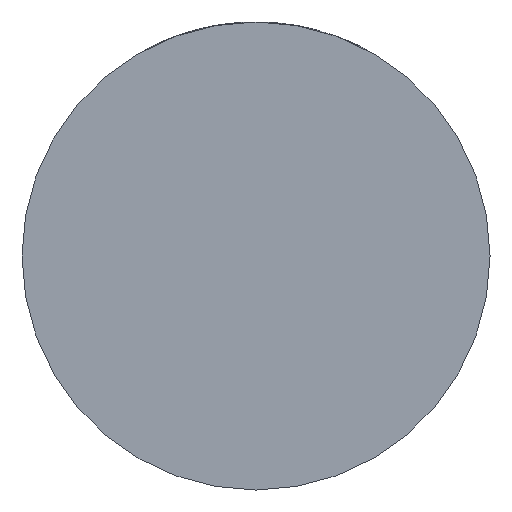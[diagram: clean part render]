
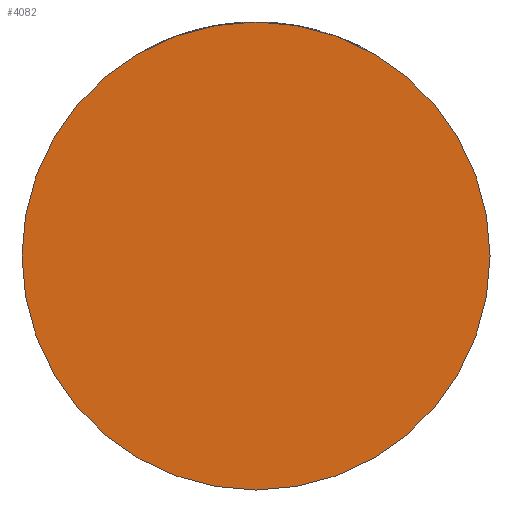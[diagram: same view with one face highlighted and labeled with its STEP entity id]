
A CAD part, front view. The second image highlights one B-rep face of the part: STEP entity #4082.
In plain terms, the highlighted planar face has unit normal (0, -1, 0).
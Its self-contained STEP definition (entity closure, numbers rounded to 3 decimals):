
#15 = CARTESIAN_POINT ( 'NONE',  ( 0., -39., 0. ) ) ;
#39 = DIRECTION ( 'NONE',  ( 1., 0., 0. ) ) ;
#62 = CIRCLE ( 'NONE', #734, 39. ) ;
#557 = CIRCLE ( 'NONE', #3568, 39. ) ;
#618 = DIRECTION ( 'NONE',  ( 1., 0., 0. ) ) ;
#667 = CARTESIAN_POINT ( 'NONE',  ( -39., -39., 0. ) ) ;
#734 = AXIS2_PLACEMENT_3D ( 'NONE', #2894, #2469, #2764 ) ;
#1138 = CARTESIAN_POINT ( 'NONE',  ( 39., -39., 0. ) ) ;
#1226 = ORIENTED_EDGE ( 'NONE', *, *, #1488, .T. ) ;
#1488 = EDGE_CURVE ( 'NONE', #1815, #2832, #62, .T. ) ;
#1815 = VERTEX_POINT ( 'NONE', #1138 ) ;
#2243 = AXIS2_PLACEMENT_3D ( 'NONE', #2279, #4004, #618 ) ;
#2279 = CARTESIAN_POINT ( 'NONE',  ( 0., -39., 0. ) ) ;
#2469 = DIRECTION ( 'NONE',  ( 0., -1., 0. ) ) ;
#2603 = FACE_OUTER_BOUND ( 'NONE', #4169, .T. ) ;
#2764 = DIRECTION ( 'NONE',  ( 1., 0., 0. ) ) ;
#2832 = VERTEX_POINT ( 'NONE', #667 ) ;
#2894 = CARTESIAN_POINT ( 'NONE',  ( 0., -39., 0. ) ) ;
#3268 = ORIENTED_EDGE ( 'NONE', *, *, #4224, .T. ) ;
#3288 = PLANE ( 'NONE',  #2243 ) ;
#3568 = AXIS2_PLACEMENT_3D ( 'NONE', #15, #4231, #39 ) ;
#4004 = DIRECTION ( 'NONE',  ( 0., -1., 0. ) ) ;
#4082 = ADVANCED_FACE ( 'NONE', ( #2603 ), #3288, .T. ) ;
#4169 = EDGE_LOOP ( 'NONE', ( #3268, #1226 ) ) ;
#4224 = EDGE_CURVE ( 'NONE', #2832, #1815, #557, .T. ) ;
#4231 = DIRECTION ( 'NONE',  ( 0., -1., 0. ) ) ;
